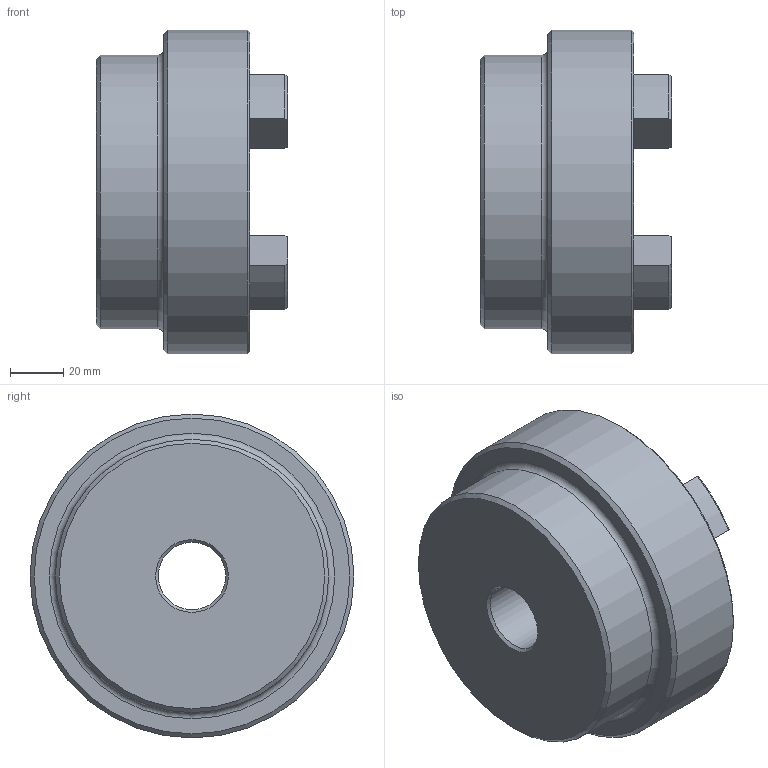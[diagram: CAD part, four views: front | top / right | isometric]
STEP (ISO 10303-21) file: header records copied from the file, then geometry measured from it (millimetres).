
FILE_DESCRIPTION (( 'STEP AP203' ), '1' );
FILE_NAME ('RC5.step', '2024-07-25T13:21:46', ( 'Adlan' ), ( '' ), 'SwSTEP 2.0', 'SolidWorks 2013', '' );
FILE_SCHEMA (( 'CONFIG_CONTROL_DESIGN' ));
Length unit declared in the file: inch
Products named in the file (1): RC5
Bounding box: 72.14 x 122.17 x 122.17 mm (x, y, z)
Volume: 458682.7 mm3; surface area: 58012.5 mm2
Topology: 1 solids, 1 shells, 76 faces, 189 edges, 117 vertices
Faces by surface type: cylinder 31, torus 17, plane 16, cone 12
Full cylindrical faces by diameter (mm): 25.408 x1, 103.124 x1, 122.174 x1
Entity records: 2349 total; most frequent: CARTESIAN_POINT 443, DIRECTION 416, ORIENTED_EDGE 358, EDGE_CURVE 179, AXIS2_PLACEMENT_3D 168, VERTEX_POINT 115, CIRCLE 91, EDGE_LOOP 88
